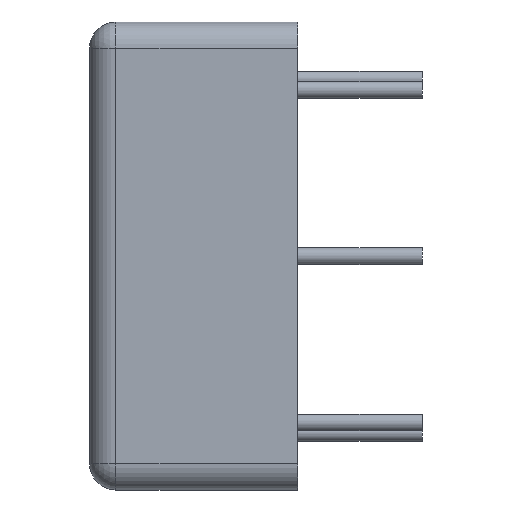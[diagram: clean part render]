
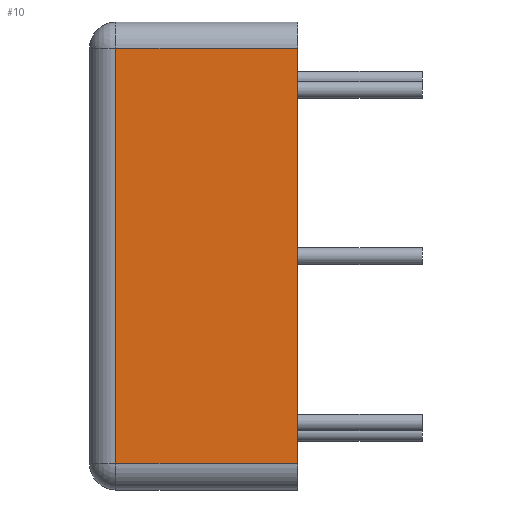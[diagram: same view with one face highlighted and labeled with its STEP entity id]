
A CAD part, left-side view. The second image highlights one B-rep face of the part: STEP entity #10.
In plain terms, the highlighted planar face has unit normal (-1, 0, 0).
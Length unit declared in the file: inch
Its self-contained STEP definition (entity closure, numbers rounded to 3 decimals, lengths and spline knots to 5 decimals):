
#10 = ADVANCED_FACE ( 'NONE', ( #1833 ), #1065, .F. ) ;
#15 = CARTESIAN_POINT ( 'NONE',  ( -1.125, 0.5, -0.4995 ) ) ;
#36 = LINE ( 'NONE', #723, #1192 ) ;
#87 = EDGE_CURVE ( 'NONE', #2688, #635, #2289, .T. ) ;
#94 = ORIENTED_EDGE ( 'NONE', *, *, #2854, .T. ) ;
#280 = DIRECTION ( 'NONE',  ( 0., 0., -1. ) ) ;
#327 = CARTESIAN_POINT ( 'NONE',  ( -1.125, 0.437, -0.5625 ) ) ;
#373 = EDGE_CURVE ( 'NONE', #635, #1993, #889, .T. ) ;
#439 = VERTEX_POINT ( 'NONE', #1460 ) ;
#635 = VERTEX_POINT ( 'NONE', #719 ) ;
#697 = CARTESIAN_POINT ( 'NONE',  ( -1.125, 0., 0.4995 ) ) ;
#706 = VECTOR ( 'NONE', #280, 39.37008 ) ;
#719 = CARTESIAN_POINT ( 'NONE',  ( -1.125, 0., -0.4995 ) ) ;
#721 = EDGE_CURVE ( 'NONE', #439, #2688, #2478, .T. ) ;
#723 = CARTESIAN_POINT ( 'NONE',  ( -1.125, 0.5, 0.4995 ) ) ;
#780 = DIRECTION ( 'NONE',  ( 0., 0., -1. ) ) ;
#809 = CARTESIAN_POINT ( 'NONE',  ( -1.125, 0.5, -0.5625 ) ) ;
#853 = DIRECTION ( 'NONE',  ( 1., 0., 0. ) ) ;
#889 = LINE ( 'NONE', #1698, #2592 ) ;
#1065 = PLANE ( 'NONE',  #2403 ) ;
#1115 = CARTESIAN_POINT ( 'NONE',  ( -1.125, 0.437, -0.4995 ) ) ;
#1192 = VECTOR ( 'NONE', #2494, 39.37008 ) ;
#1460 = CARTESIAN_POINT ( 'NONE',  ( -1.125, 0.437, 0.4995 ) ) ;
#1698 = CARTESIAN_POINT ( 'NONE',  ( -1.125, 0., -0.5625 ) ) ;
#1702 = VECTOR ( 'NONE', #2845, 39.37008 ) ;
#1765 = DIRECTION ( 'NONE',  ( 0., 0., 1. ) ) ;
#1781 = ORIENTED_EDGE ( 'NONE', *, *, #373, .T. ) ;
#1833 = FACE_OUTER_BOUND ( 'NONE', #2258, .T. ) ;
#1993 = VERTEX_POINT ( 'NONE', #697 ) ;
#2258 = EDGE_LOOP ( 'NONE', ( #2303, #2838, #1781, #94 ) ) ;
#2289 = LINE ( 'NONE', #15, #1702 ) ;
#2303 = ORIENTED_EDGE ( 'NONE', *, *, #721, .T. ) ;
#2403 = AXIS2_PLACEMENT_3D ( 'NONE', #809, #853, #780 ) ;
#2478 = LINE ( 'NONE', #327, #706 ) ;
#2494 = DIRECTION ( 'NONE',  ( 0., 1., 0. ) ) ;
#2592 = VECTOR ( 'NONE', #1765, 39.37008 ) ;
#2688 = VERTEX_POINT ( 'NONE', #1115 ) ;
#2838 = ORIENTED_EDGE ( 'NONE', *, *, #87, .T. ) ;
#2845 = DIRECTION ( 'NONE',  ( 0., -1., 0. ) ) ;
#2854 = EDGE_CURVE ( 'NONE', #1993, #439, #36, .T. ) ;
